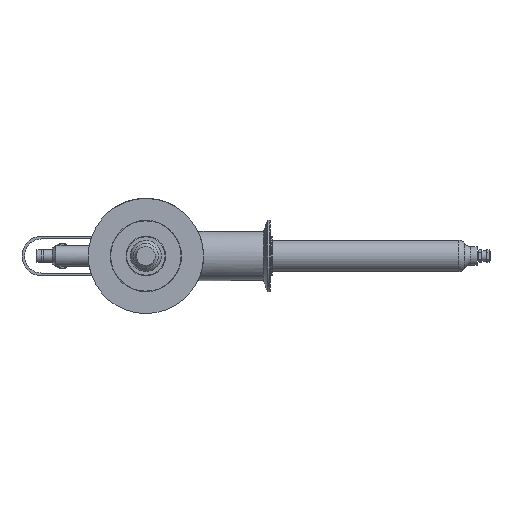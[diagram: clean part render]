
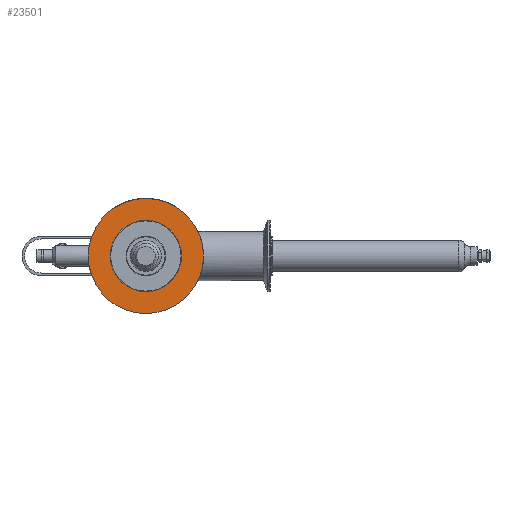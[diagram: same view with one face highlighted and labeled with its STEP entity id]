
A CAD part, front view. The second image highlights one B-rep face of the part: STEP entity #23501.
In plain terms, the highlighted planar face has unit normal (0, -1, 0).
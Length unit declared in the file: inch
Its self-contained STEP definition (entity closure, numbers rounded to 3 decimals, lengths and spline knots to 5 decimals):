
#1395 = DIRECTION ( 'NONE',  ( 0., 0., 1. ) ) ;
#1557 = DIRECTION ( 'NONE',  ( 0., 0., -1. ) ) ;
#5863 = CARTESIAN_POINT ( 'NONE',  ( 0., 4., 0. ) ) ;
#7666 = ORIENTED_EDGE ( 'NONE', *, *, #12904, .F. ) ;
#9815 = DIRECTION ( 'NONE',  ( 0., 0., 1. ) ) ;
#10051 = VERTEX_POINT ( 'NONE', #18738 ) ;
#10908 = EDGE_LOOP ( 'NONE', ( #15064 ) ) ;
#11344 = CARTESIAN_POINT ( 'NONE',  ( 0., 4., 2.7815 ) ) ;
#11501 = CIRCLE ( 'NONE', #26541, 1.1875 ) ;
#12088 = CARTESIAN_POINT ( 'NONE',  ( 0., 4., 0. ) ) ;
#12904 = EDGE_CURVE ( 'NONE', #26309, #26309, #23754, .T. ) ;
#14723 = EDGE_LOOP ( 'NONE', ( #7666 ) ) ;
#15064 = ORIENTED_EDGE ( 'NONE', *, *, #25492, .F. ) ;
#18738 = CARTESIAN_POINT ( 'NONE',  ( 0., 4., -1.1875 ) ) ;
#18923 = FACE_OUTER_BOUND ( 'NONE', #14723, .T. ) ;
#19068 = PLANE ( 'NONE',  #23557 ) ;
#19627 = AXIS2_PLACEMENT_3D ( 'NONE', #12088, #22926, #9815 ) ;
#20925 = DIRECTION ( 'NONE',  ( 0., 1., 0. ) ) ;
#21061 = CARTESIAN_POINT ( 'NONE',  ( 0., 4., 0. ) ) ;
#22926 = DIRECTION ( 'NONE',  ( 0., 1., 0. ) ) ;
#23075 = FACE_BOUND ( 'NONE', #10908, .T. ) ;
#23237 = DIRECTION ( 'NONE',  ( 0., -1., 0. ) ) ;
#23501 = ADVANCED_FACE ( 'NONE', ( #18923, #23075 ), #19068, .F. ) ;
#23557 = AXIS2_PLACEMENT_3D ( 'NONE', #21061, #20925, #1395 ) ;
#23754 = CIRCLE ( 'NONE', #19627, 2.7815 ) ;
#25492 = EDGE_CURVE ( 'NONE', #10051, #10051, #11501, .T. ) ;
#26309 = VERTEX_POINT ( 'NONE', #11344 ) ;
#26541 = AXIS2_PLACEMENT_3D ( 'NONE', #5863, #23237, #1557 ) ;
